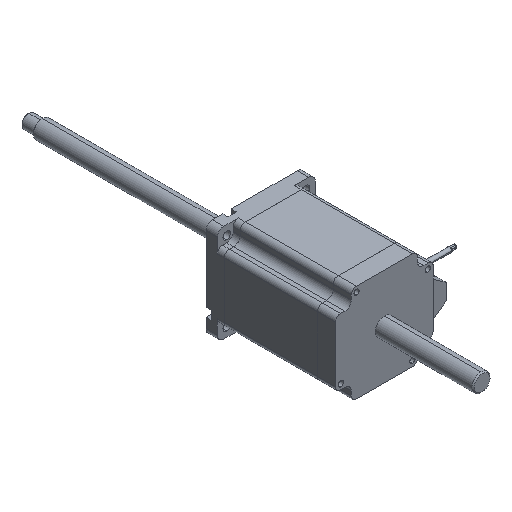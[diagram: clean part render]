
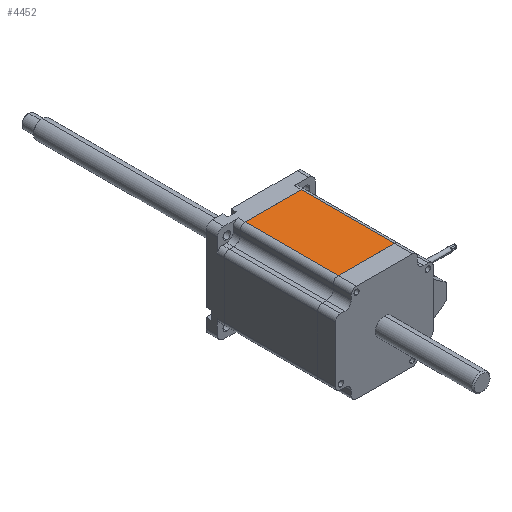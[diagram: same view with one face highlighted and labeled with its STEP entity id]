
A CAD part, isometric view. The second image highlights one B-rep face of the part: STEP entity #4452.
In plain terms, the highlighted planar face has unit normal (0, 0, 1).
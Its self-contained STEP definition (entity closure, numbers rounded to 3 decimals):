
#102 = VERTEX_POINT ( 'NONE', #5687 ) ;
#150 = LINE ( 'NONE', #3277, #4942 ) ;
#315 = CARTESIAN_POINT ( 'NONE',  ( 37.3, -87.992, 43. ) ) ;
#877 = DIRECTION ( 'NONE',  ( -1., 0., 0. ) ) ;
#1114 = DIRECTION ( 'NONE',  ( -1., 0., 0. ) ) ;
#1285 = CARTESIAN_POINT ( 'NONE',  ( -24.65, -104., 43. ) ) ;
#1579 = AXIS2_PLACEMENT_3D ( 'NONE', #5490, #6485, #1114 ) ;
#1712 = VECTOR ( 'NONE', #4633, 1000. ) ;
#1919 = CARTESIAN_POINT ( 'NONE',  ( 37.3, -6.008, 43. ) ) ;
#2125 = CARTESIAN_POINT ( 'NONE',  ( 24.65, -87.992, 43. ) ) ;
#2785 = CARTESIAN_POINT ( 'NONE',  ( 24.65, -6.008, 43. ) ) ;
#2994 = VECTOR ( 'NONE', #877, 1000. ) ;
#3013 = VERTEX_POINT ( 'NONE', #5007 ) ;
#3277 = CARTESIAN_POINT ( 'NONE',  ( 24.65, -104., 43. ) ) ;
#3424 = EDGE_CURVE ( 'NONE', #102, #3013, #5004, .T. ) ;
#4036 = DIRECTION ( 'NONE',  ( 0., 1., 0. ) ) ;
#4144 = ORIENTED_EDGE ( 'NONE', *, *, #4207, .F. ) ;
#4207 = EDGE_CURVE ( 'NONE', #4946, #102, #5614, .T. ) ;
#4292 = EDGE_CURVE ( 'NONE', #3013, #4483, #4592, .T. ) ;
#4332 = DIRECTION ( 'NONE',  ( 0., 1., 0. ) ) ;
#4338 = FACE_OUTER_BOUND ( 'NONE', #4903, .T. ) ;
#4452 = ADVANCED_FACE ( 'NONE', ( #4338 ), #4730, .F. ) ;
#4483 = VERTEX_POINT ( 'NONE', #2785 ) ;
#4520 = EDGE_CURVE ( 'NONE', #4946, #4483, #150, .T. ) ;
#4592 = LINE ( 'NONE', #1919, #1712 ) ;
#4633 = DIRECTION ( 'NONE',  ( 1., 0., 0. ) ) ;
#4730 = PLANE ( 'NONE',  #1579 ) ;
#4903 = EDGE_LOOP ( 'NONE', ( #4144, #6110, #6739, #5923 ) ) ;
#4942 = VECTOR ( 'NONE', #4332, 1000. ) ;
#4946 = VERTEX_POINT ( 'NONE', #2125 ) ;
#5004 = LINE ( 'NONE', #1285, #6530 ) ;
#5007 = CARTESIAN_POINT ( 'NONE',  ( -24.65, -6.008, 43. ) ) ;
#5490 = CARTESIAN_POINT ( 'NONE',  ( 37.3, 10., 43. ) ) ;
#5614 = LINE ( 'NONE', #315, #2994 ) ;
#5687 = CARTESIAN_POINT ( 'NONE',  ( -24.65, -87.992, 43. ) ) ;
#5923 = ORIENTED_EDGE ( 'NONE', *, *, #3424, .F. ) ;
#6110 = ORIENTED_EDGE ( 'NONE', *, *, #4520, .T. ) ;
#6485 = DIRECTION ( 'NONE',  ( 0., 0., -1. ) ) ;
#6530 = VECTOR ( 'NONE', #4036, 1000. ) ;
#6739 = ORIENTED_EDGE ( 'NONE', *, *, #4292, .F. ) ;
